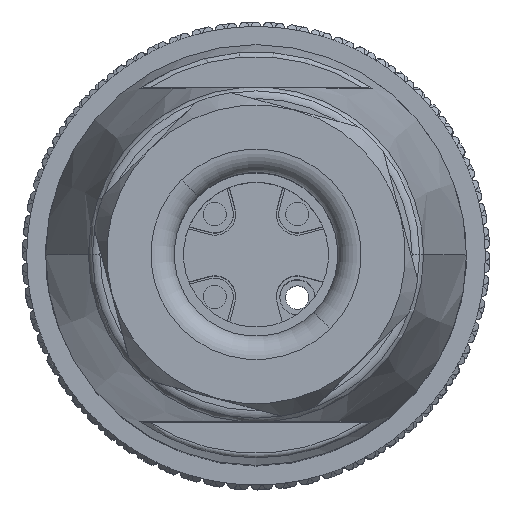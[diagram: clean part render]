
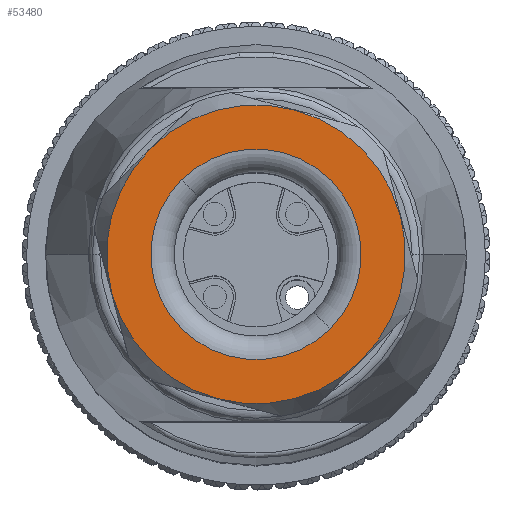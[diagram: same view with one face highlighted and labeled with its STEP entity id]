
A CAD part, top view. The second image highlights one B-rep face of the part: STEP entity #53480.
In plain terms, the highlighted planar face has unit normal (0, 0, 1).
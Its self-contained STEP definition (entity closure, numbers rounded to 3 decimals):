
#17385=CARTESIAN_POINT('',(0.,0.,
39.11));
#17386=DIRECTION('',(0.,0.,-1.));
#17387=DIRECTION('',(0.707,-0.707,0.));
#17388=AXIS2_PLACEMENT_3D('',#17385,#17386,#17387);
#17390=CARTESIAN_POINT('',(0.,0.,
39.11));
#17391=DIRECTION('',(0.,0.,-1.));
#17392=DIRECTION('',(-0.707,0.707,0.));
#17393=AXIS2_PLACEMENT_3D('',#17390,#17391,#17392);
#17395=CARTESIAN_POINT('',(0.,0.,
39.11));
#17396=DIRECTION('',(0.,0.,1.));
#17397=DIRECTION('',(-0.707,0.707,0.));
#17398=AXIS2_PLACEMENT_3D('',#17395,#17396,#17397);
#17400=CARTESIAN_POINT('',(0.,0.,
39.11));
#17401=DIRECTION('',(0.,0.,1.));
#17402=DIRECTION('',(0.707,-0.707,0.));
#17403=AXIS2_PLACEMENT_3D('',#17400,#17401,#17402);
#33791=CARTESIAN_POINT('',(-4.518,4.518,
39.11));
#33793=VERTEX_POINT('',#33791);
#33795=CARTESIAN_POINT('',(4.518,-4.518,
39.11));
#33797=VERTEX_POINT('',#33795);
#33803=CARTESIAN_POINT('',(3.182,-3.182,
39.11));
#33804=CARTESIAN_POINT('',(-3.182,3.182,
39.11));
#33805=VERTEX_POINT('',#33803);
#33806=VERTEX_POINT('',#33804);
#53465=CARTESIAN_POINT('',(0.,0.,
39.11));
#53466=DIRECTION('',(0.,0.,-1.));
#53467=DIRECTION('',(0.707,-0.707,0.));
#53468=AXIS2_PLACEMENT_3D('',#53465,#53466,#53467);
#53469=PLANE('',#53468);
#53471=ORIENTED_EDGE('',*,*,#53470,.F.);
#53473=ORIENTED_EDGE('',*,*,#53472,.F.);
#53474=EDGE_LOOP('',(#53471,#53473));
#53475=FACE_OUTER_BOUND('',#53474,.F.);
#53476=ORIENTED_EDGE('',*,*,#53458,.F.);
#53477=ORIENTED_EDGE('',*,*,#53444,.F.);
#53478=EDGE_LOOP('',(#53476,#53477));
#53479=FACE_BOUND('',#53478,.F.);
#53480=ADVANCED_FACE('',(#53475,#53479),#53469,.F.);
#17389=CIRCLE('',#17388,4.5);
#17394=CIRCLE('',#17393,4.5);
#17399=CIRCLE('',#17398,6.39);
#17404=CIRCLE('',#17403,6.39);
#53444=EDGE_CURVE('',#33806,#33805,#17394,.T.);
#53458=EDGE_CURVE('',#33805,#33806,#17389,.T.);
#53470=EDGE_CURVE('',#33793,#33797,#17399,.T.);
#53472=EDGE_CURVE('',#33797,#33793,#17404,.T.);
